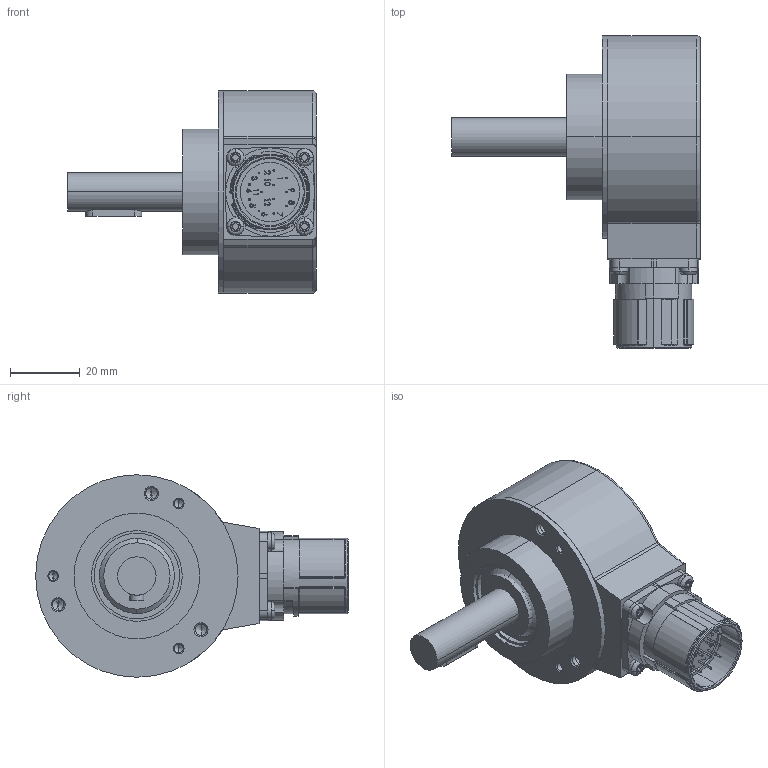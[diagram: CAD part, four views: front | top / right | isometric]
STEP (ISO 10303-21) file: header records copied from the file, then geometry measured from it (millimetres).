
FILE_DESCRIPTION (( 'STEP AP203' ), '1' );
FILE_NAME ('K58I.OXX.XXXXX.XS3C511.6XRC4.step', '2025-12-08T15:45:28', ( '' ), ( '' ), 'SwSTEP 2.0', 'SolidWorks 2021', '' );
FILE_SCHEMA (( 'CONFIG_CONTROL_DESIGN' ));
Length unit declared in the file: millimetre
Products named in the file (1): K58I.OXX.XXXXX.XS3C511.6XRC4
Bounding box: 71.19 x 89.6 x 58 mm (x, y, z)
Volume: 132554.5 mm3; surface area: 33202.7 mm2
Topology: 6 solids, 6 shells, 600 faces, 1519 edges, 963 vertices
Faces by surface type: cylinder 245, plane 177, bspline 96, sphere 34, cone 33, torus 15
Entity records: 23817 total; most frequent: CARTESIAN_POINT 9699, ORIENTED_EDGE 2954, DIRECTION 2863, EDGE_CURVE 1477, AXIS2_PLACEMENT_3D 1094, VERTEX_POINT 960, EDGE_LOOP 679, LINE 675
